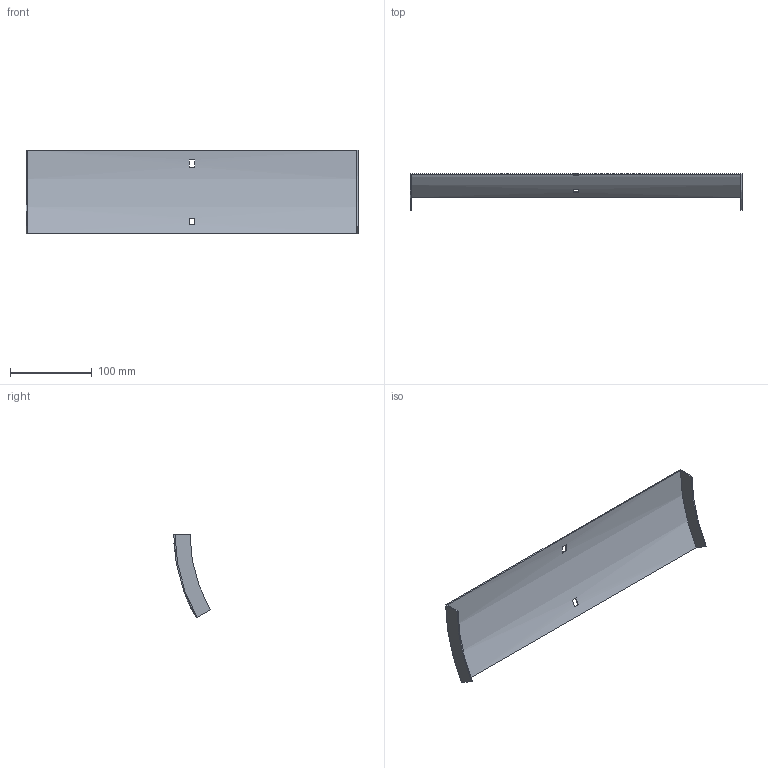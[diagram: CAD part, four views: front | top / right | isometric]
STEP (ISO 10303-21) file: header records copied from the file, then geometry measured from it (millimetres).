
FILE_DESCRIPTION (( 'STEP AP214' ), '1' );
FILE_NAME ('35N1D400.step', '2025-02-21T09:11:07', ( '' ), ( '' ), 'SwSTEP 2.0', 'SolidWorks 2023', '' );
FILE_SCHEMA (( 'AUTOMOTIVE_DESIGN' ));
Length unit declared in the file: millimetre
Products named in the file (1): 35N1D400
Bounding box: 407 x 44.85 x 102.75 mm (x, y, z)
Volume: 70933.1 mm3; surface area: 96295.3 mm2
Topology: 1 solids, 1 shells, 18 faces, 48 edges, 32 vertices
Faces by surface type: plane 14, cylinder 4
Entity records: 599 total; most frequent: DIRECTION 102, CARTESIAN_POINT 99, ORIENTED_EDGE 96, EDGE_CURVE 48, AXIS2_PLACEMENT_3D 35, LINE 32, VECTOR 32, VERTEX_POINT 32
